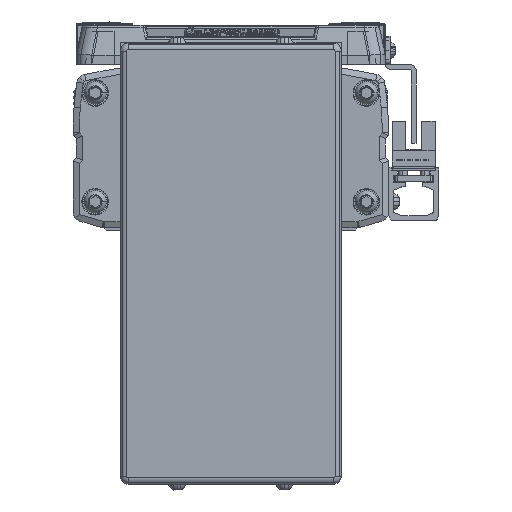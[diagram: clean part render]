
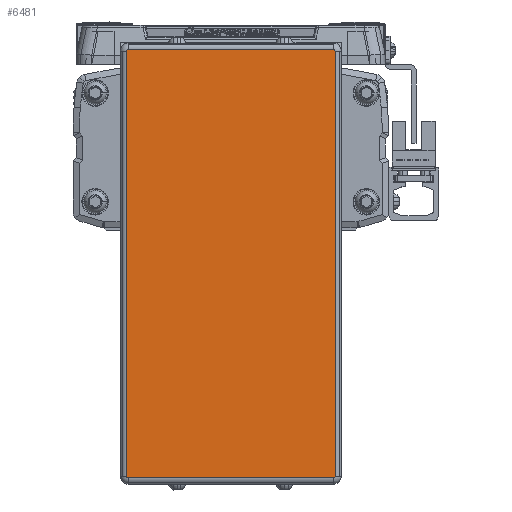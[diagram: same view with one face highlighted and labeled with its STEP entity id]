
A CAD part, left-side view. The second image highlights one B-rep face of the part: STEP entity #6481.
In plain terms, the highlighted planar face has unit normal (-1, 0, 0).
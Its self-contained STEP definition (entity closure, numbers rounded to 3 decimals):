
#6481=ADVANCED_FACE('',(#13743),#13744,.F.);
#13743=FACE_OUTER_BOUND('',#22251,.T.);
#13744=PLANE('',#22252);
#22251=EDGE_LOOP('',(#40737,#40738,#40739,#40740,#40741,#40742,#40743,#40744));
#22252=AXIS2_PLACEMENT_3D('',#40745,#40746,#40747);
#40737=ORIENTED_EDGE('',*,*,#52143,.T.);
#40738=ORIENTED_EDGE('',*,*,#55597,.T.);
#40739=ORIENTED_EDGE('',*,*,#48169,.T.);
#40740=ORIENTED_EDGE('',*,*,#50498,.T.);
#40741=ORIENTED_EDGE('',*,*,#53229,.T.);
#40742=ORIENTED_EDGE('',*,*,#51804,.T.);
#40743=ORIENTED_EDGE('',*,*,#55598,.T.);
#40744=ORIENTED_EDGE('',*,*,#54821,.T.);
#40745=CARTESIAN_POINT('',(-616.0,0.,-41.6));
#40746=DIRECTION('',(1.0,0.,0.));
#40747=DIRECTION('',(0.,0.,1.0));
#48169=EDGE_CURVE('',#57299,#57297,#57300,.T.);
#50498=EDGE_CURVE('',#57297,#61335,#61338,.T.);
#51804=EDGE_CURVE('',#63469,#63467,#63470,.T.);
#52143=EDGE_CURVE('',#64001,#63999,#64002,.T.);
#53229=EDGE_CURVE('',#61335,#63469,#65611,.T.);
#54821=EDGE_CURVE('',#67793,#64001,#67794,.T.);
#55597=EDGE_CURVE('',#63999,#57299,#68743,.T.);
#55598=EDGE_CURVE('',#63467,#67793,#68744,.T.);
#57297=VERTEX_POINT('',#70658);
#57299=VERTEX_POINT('',#70660);
#57300=LINE('',#70661,#70662);
#61335=VERTEX_POINT('',#76232);
#61338=CIRCLE('',#76235,0.5);
#63467=VERTEX_POINT('',#79086);
#63469=VERTEX_POINT('',#79088);
#63470=CIRCLE('',#79089,0.5);
#63999=VERTEX_POINT('',#79768);
#64001=VERTEX_POINT('',#79770);
#64002=LINE('',#79771,#79772);
#65611=LINE('',#82066,#82067);
#67793=VERTEX_POINT('',#85094);
#67794=CIRCLE('',#85095,0.5);
#68743=CIRCLE('',#86430,0.5);
#68744=LINE('',#86431,#86432);
#70658=CARTESIAN_POINT('',(-616.,32.55,26.3));
#70660=CARTESIAN_POINT('',(-616.,-32.55,26.3));
#70661=CARTESIAN_POINT('',(-616.,0.,26.3));
#70662=VECTOR('',#88736,10.0);
#76232=CARTESIAN_POINT('',(-616.,33.05,25.8));
#76235=AXIS2_PLACEMENT_3D('',#92035,#92036,#92037);
#79086=CARTESIAN_POINT('',(-616.0,32.55,-109.5));
#79088=CARTESIAN_POINT('',(-616.0,33.05,-109.));
#79089=AXIS2_PLACEMENT_3D('',#93947,#93948,#93949);
#79768=CARTESIAN_POINT('',(-616.,-33.05,25.8));
#79770=CARTESIAN_POINT('',(-616.0,-33.05,-109.));
#79771=CARTESIAN_POINT('',(-616.0,-33.05,-41.6));
#79772=VECTOR('',#94428,10.0);
#82066=CARTESIAN_POINT('',(-616.0,33.05,-41.6));
#82067=VECTOR('',#95849,10.0);
#85094=CARTESIAN_POINT('',(-616.0,-32.55,-109.5));
#85095=AXIS2_PLACEMENT_3D('',#97868,#97869,#97870);
#86430=AXIS2_PLACEMENT_3D('',#98655,#98656,#98657);
#86431=CARTESIAN_POINT('',(-616.0,0.,-109.5));
#86432=VECTOR('',#98658,10.0);
#88736=DIRECTION('',(0.,1.0,0.));
#92035=CARTESIAN_POINT('',(-616.,32.55,25.8));
#92036=DIRECTION('',(-1.0,0.,0.));
#92037=DIRECTION('',(0.,0.707,0.707));
#93947=CARTESIAN_POINT('',(-616.0,32.55,-109.));
#93948=DIRECTION('',(-1.0,0.,0.));
#93949=DIRECTION('',(0.,0.707,-0.707));
#94428=DIRECTION('',(0.,0.,1.0));
#95849=DIRECTION('',(0.,0.,-1.0));
#97868=CARTESIAN_POINT('',(-616.0,-32.55,-109.));
#97869=DIRECTION('',(-1.0,0.,0.));
#97870=DIRECTION('',(0.,-0.707,-0.707));
#98655=CARTESIAN_POINT('',(-616.,-32.55,25.8));
#98656=DIRECTION('',(-1.0,0.,0.));
#98657=DIRECTION('',(0.,-0.707,0.707));
#98658=DIRECTION('',(0.,-1.0,0.));
